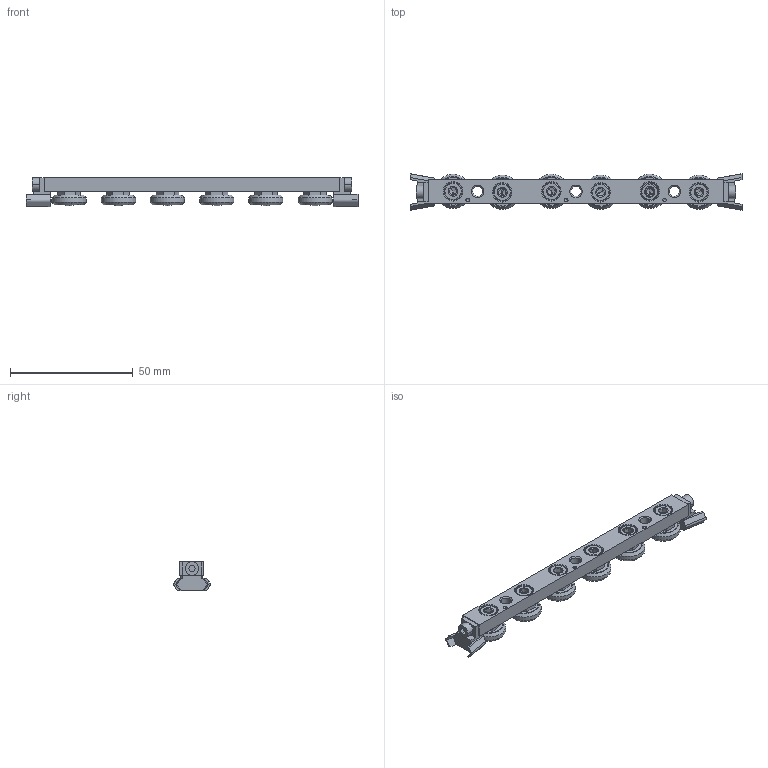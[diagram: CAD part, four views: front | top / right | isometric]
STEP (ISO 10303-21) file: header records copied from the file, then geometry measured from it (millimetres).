
FILE_DESCRIPTION (( 'STEP AP203' ), '1' );
FILE_NAME ('L1918.CSW18-120-2RSTB.step', '2019-06-29T22:09:00', ( '' ), ( '' ), 'SwSTEP 2.0', 'SolidWorks 2017', '' );
FILE_SCHEMA (( 'CONFIG_CONTROL_DESIGN' ));
Length unit declared in the file: millimetre
Products named in the file (6): Part1_L1918.CSW18-120-2RSTB; Part8; L1918.CSW18-120-2RSTB; Part6; Part4; Part5
Assembly tree (20 placements, depth 2):
  L1918.CSW18-120-2RSTB
    Part1_L1918.CSW18-120-2RSTB
    Part8  x11
    Part4  x3
    Part5  x3
    Part6  x2
Bounding box: 135 x 14.8 x 11.95 mm (x, y, z)
Volume: 11037.8 mm3; surface area: 10833.1 mm2
Topology: 20 solids, 20 shells, 624 faces, 1444 edges, 884 vertices
Faces by surface type: plane 312, cone 170, cylinder 108, torus 34
Entity records: 7361 total; most frequent: DIRECTION 1170, CARTESIAN_POINT 1163, ORIENTED_EDGE 992, EDGE_CURVE 496, AXIS2_PLACEMENT_3D 450, VERTEX_POINT 318, VECTOR 270, LINE 270
